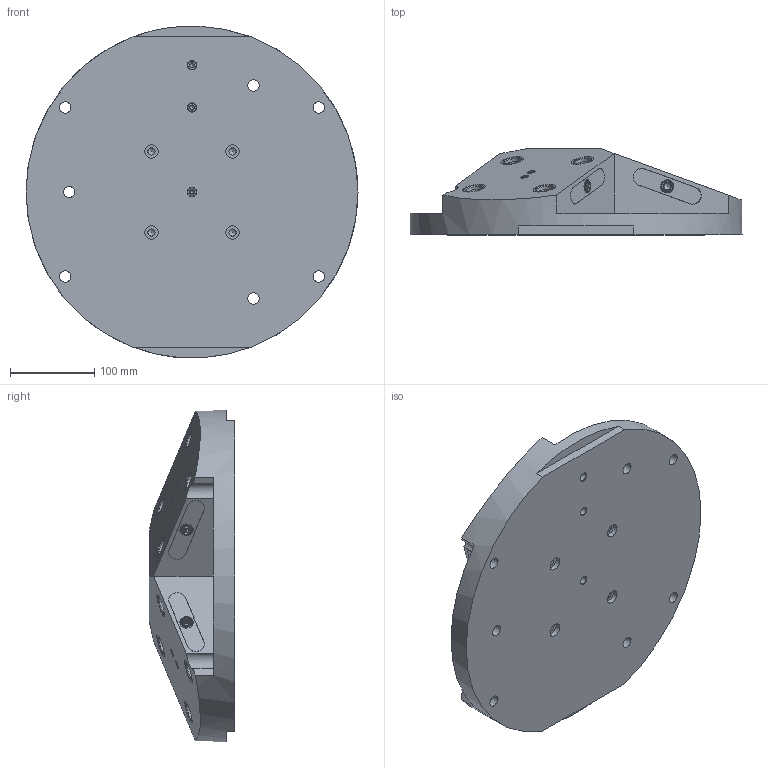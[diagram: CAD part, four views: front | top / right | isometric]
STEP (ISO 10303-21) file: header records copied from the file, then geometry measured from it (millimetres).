
FILE_DESCRIPTION (( 'STEP AP214' ), '1' );
FILE_NAME ('RL96A-P320_WEBSITE.step', '2025-08-11T11:28:33', ( '' ), ( '' ), 'SwSTEP 2.0', 'SolidWorks 2025', '' );
FILE_SCHEMA (( 'AUTOMOTIVE_DESIGN' ));
Length unit declared in the file: inch
Products named in the file (8): RL96-2R_WEBSITE_PLATING; HW27X20.DB_WEBSITE_PLATING; RL96A-P320_WEBSITE; SB54_WEBSITE_FINISHED PART; RL96-1P320A_WEBSITE_FINISHED PART ; RL96-2L_WEBSITE; RL96-3_WEBSITE_PLATING; C_033.OR
Assembly tree (34 placements, depth 2):
  RL96A-P320_WEBSITE
    RL96-1P320A_WEBSITE_FINISHED PART 
    RL96-2L_WEBSITE  x3
    RL96-2R_WEBSITE_PLATING  x3
    RL96-3_WEBSITE_PLATING  x3
    HW27X20.DB_WEBSITE_PLATING  x12
    SB54_WEBSITE_FINISHED PART  x6
    C_033.OR  x6
Bounding box: 393 x 101.6 x 392.63 mm (x, y, z)
Volume: 6566074.3 mm3; surface area: 521200.5 mm2
Topology: 34 solids, 34 shells, 899 faces, 2071 edges, 1313 vertices
Faces by surface type: plane 539, cylinder 270, cone 60, torus 30
Full cylindrical faces by diameter (mm): 1.778 x12, 2.642 x6, 3.3 x6, 4 x6, 4.7 x6, 5 x9, 5.182 x6, 6 x3, 8.204 x6, 8.5 x4, 9 x6, 9.525 x6, 10.025 x3, 10.2 x1, 10.795 x3, 11.938 x12, 12.573 x12, 13.494 x7, 14 x6, 15.748 x6, 16.02 x4, 19.05 x6, 19.101 x12, 20 x3, 20.015 x12, 20.035 x12, 21.082 x7, 26.982 x12, 26.987 x3, 26.988 x9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
Entity records: 13939 total; most frequent: CARTESIAN_POINT 3538, DIRECTION 2102, ORIENTED_EDGE 1600, AXIS2_PLACEMENT_3D 893, EDGE_CURVE 800, EDGE_LOOP 761, VERTEX_POINT 609, FACE_OUTER_BOUND 601
